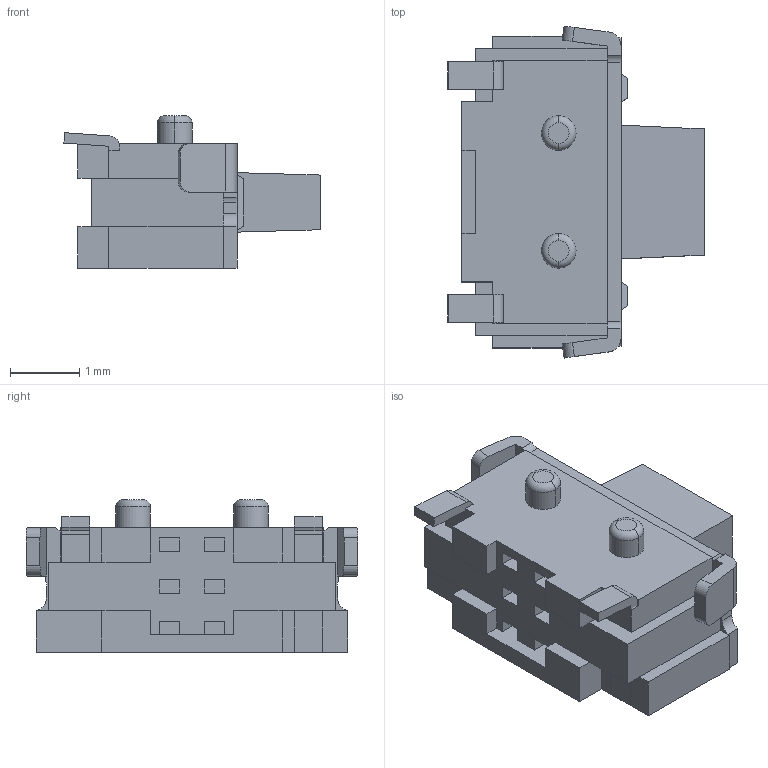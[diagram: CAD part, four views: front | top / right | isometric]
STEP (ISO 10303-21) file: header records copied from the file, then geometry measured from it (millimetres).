
FILE_DESCRIPTION((''),'2;1');
FILE_NAME('JQD1844-C0351-ADG-1-105_ASM','2026-04-10T10:32:33',('Admin'),(''),'CREO PARAMETRIC BY PTC INC, 2019224','CREO PARAMETRIC BY PTC INC, 2019224','');
FILE_SCHEMA(('AUTOMOTIVE_DESIGN { 1 0 10303 214 1 1 1 1 }'));
Length unit declared in the file: millimetre
Products named in the file (9): JQD1844-C0351-ADG-1-105_01_02; JQD1844-C0351-ADG-1-105_01_04; JQD1844-C0351-ADG-1-105_01_05; JQD1844-C0351-ADG-1-105_01_03_ASM; JQD1844-C0351-ADG-1-105_01_06; JQD1844-C0351-ADG-1-105_01_07; JQD1844-C0351-ADG-1-105_01_01_ASM; JQD1844-C0351-ADG-1-105_01_ASM; JQD1844-C0351-ADG-1-105_ASM
Assembly tree (8 placements, depth 5):
  JQD1844-C0351-ADG-1-105_ASM
    JQD1844-C0351-ADG-1-105_01_ASM
      JQD1844-C0351-ADG-1-105_01_01_ASM
        JQD1844-C0351-ADG-1-105_01_02
        JQD1844-C0351-ADG-1-105_01_03_ASM
          JQD1844-C0351-ADG-1-105_01_04
          JQD1844-C0351-ADG-1-105_01_05
        JQD1844-C0351-ADG-1-105_01_06
        JQD1844-C0351-ADG-1-105_01_07
Bounding box: 3.7 x 4.79 x 2.2 mm (x, y, z)
Volume: 14.3 mm3; surface area: 97.6 mm2
Topology: 5 solids, 5 shells, 188 faces, 492 edges, 324 vertices
Faces by surface type: plane 162, cylinder 22, torus 4
Entity records: 7281 total; most frequent: CARTESIAN_POINT 1058, DIRECTION 984, ORIENTED_EDGE 984, EDGE_CURVE 492, VECTOR 440, LINE 440, PRESENTATION_STYLE_ASSIGNMENT 349, STYLED_ITEM 349
